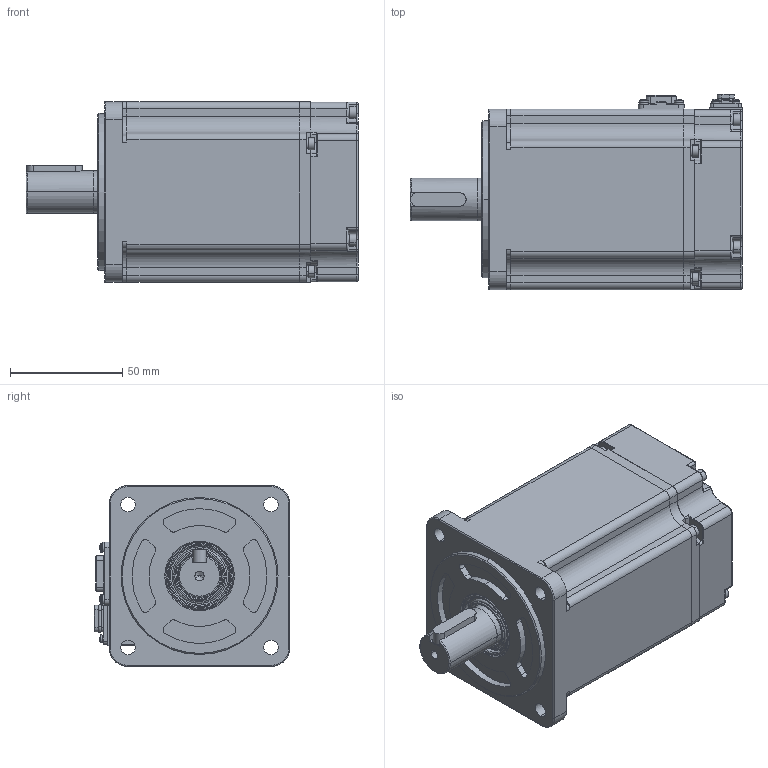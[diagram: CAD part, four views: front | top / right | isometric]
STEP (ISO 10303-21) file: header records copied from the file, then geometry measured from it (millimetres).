
FILE_DESCRIPTION (( 'STEP AP203' ), '1' );
FILE_NAME ('80X6-1000W齬脣.STEP', '2023-12-01T06:41:02', ( '' ), ( '' ), 'SwSTEP 2.0', 'SolidWorks 2021', '' );
FILE_SCHEMA (( 'CONFIG_CONTROL_DESIGN' ));
Length unit declared in the file: millimetre
Products named in the file (15): 80一体机壳-三竹护罩_1000W; spring lock washers--normal type gb_GB_FASTENER_WASHER_SW 2.5; 80X6方护罩（三竹）; sc-mc6p-ah2g-14; socket head cap screw_iso_ISO 4762 M3 x 5 - 5N; 80X6-1000W齬脣; spring lock washers--normal type gb_GB_FASTENER_WASHER_SW 2; pan head cross recess screw_iso_ISO 7045 - M2 x 3 - Z - 3N; spring lock washers--normal type gb_GB_FASTENER_WASHER_SW 3; 80す瑩; 蚐猾(20X30X4); pan head cross recess screw_iso_ISO 7045 - M1.6 x 3 - Z - 3N; 80后端盖-瑞鹰; 80X6.36諦誧粣; sc-mc7p-a60g-18
Assembly tree (40 placements, depth 2):
  80X6-1000W齬脣
    80一体机壳-三竹护罩_1000W
    80后端盖-瑞鹰
    蚐猾(20X30X4)
    80X6.36諦誧粣
    spring lock washers--normal type gb_GB_FASTENER_WASHER_SW 3  x8
    socket head cap screw_iso_ISO 4762 M3 x 5 - 5N  x8
    spring lock washers--normal type gb_GB_FASTENER_WASHER_SW 2.5  x4
    pan head cross recess screw_iso_ISO 7045 - M2 x 3 - Z - 3N  x4
    80す瑩
    80X6方护罩（三竹）
    sc-mc6p-ah2g-14
    sc-mc7p-a60g-18
    pan head cross recess screw_iso_ISO 7045 - M1.6 x 3 - Z - 3N  x4
    spring lock washers--normal type gb_GB_FASTENER_WASHER_SW 2  x4
Bounding box: 148 x 87.2 x 80.5 mm (x, y, z)
Volume: 231386.9 mm3; surface area: 113572.7 mm2
Topology: 42 solids, 43 shells, 2781 faces, 6998 edges, 4399 vertices
Faces by surface type: plane 1534, cylinder 841, cone 195, torus 179, sphere 28, bspline 4
Entity records: 70394 total; most frequent: CARTESIAN_POINT 14048, DIRECTION 11270, ORIENTED_EDGE 11264, EDGE_CURVE 5632, AXIS2_PLACEMENT_3D 3862, VERTEX_POINT 3600, VECTOR 3546, LINE 3546
